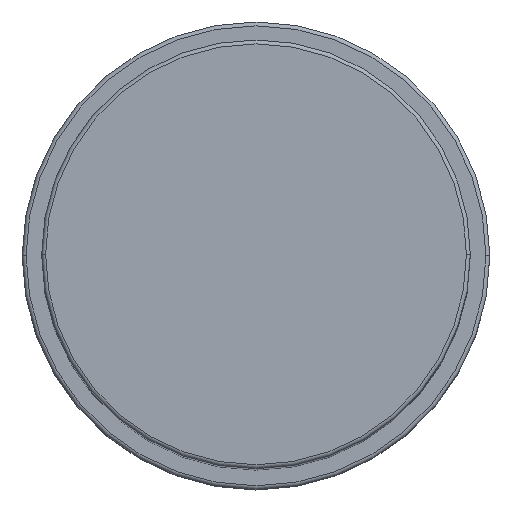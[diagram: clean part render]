
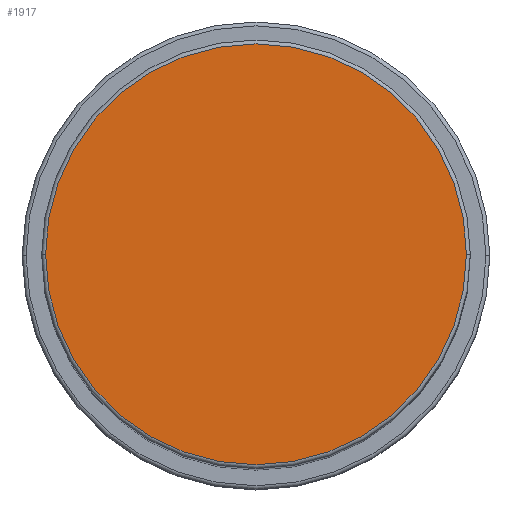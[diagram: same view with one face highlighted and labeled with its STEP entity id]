
A CAD part, top view. The second image highlights one B-rep face of the part: STEP entity #1917.
In plain terms, the highlighted planar face has unit normal (0, 0, 1).
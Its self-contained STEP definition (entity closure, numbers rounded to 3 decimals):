
#74 = DIRECTION ( 'NONE',  ( 0., 0., 1. ) ) ;
#184 = EDGE_CURVE ( 'NONE', #1503, #1585, #808, .T. ) ;
#199 = DIRECTION ( 'NONE',  ( 0., 0., 1. ) ) ;
#239 = DIRECTION ( 'NONE',  ( 1., 0., 0. ) ) ;
#367 = PLANE ( 'NONE',  #520 ) ;
#433 = EDGE_LOOP ( 'NONE', ( #670, #1933 ) ) ;
#491 = CARTESIAN_POINT ( 'NONE',  ( 0., 0., 123. ) ) ;
#520 = AXIS2_PLACEMENT_3D ( 'NONE', #703, #74, #239 ) ;
#670 = ORIENTED_EDGE ( 'NONE', *, *, #1326, .T. ) ;
#703 = CARTESIAN_POINT ( 'NONE',  ( 0., 0., 123. ) ) ;
#731 = DIRECTION ( 'NONE',  ( 1., 0., 0. ) ) ;
#808 = CIRCLE ( 'NONE', #1796, 27. ) ;
#905 = FACE_OUTER_BOUND ( 'NONE', #433, .T. ) ;
#1022 = CARTESIAN_POINT ( 'NONE',  ( -27., 0., 123. ) ) ;
#1071 = CIRCLE ( 'NONE', #1899, 27. ) ;
#1090 = CARTESIAN_POINT ( 'NONE',  ( 0., 0., 123. ) ) ;
#1232 = DIRECTION ( 'NONE',  ( 0., 0., 1. ) ) ;
#1283 = DIRECTION ( 'NONE',  ( 1., 0., 0. ) ) ;
#1326 = EDGE_CURVE ( 'NONE', #1585, #1503, #1071, .T. ) ;
#1503 = VERTEX_POINT ( 'NONE', #1022 ) ;
#1585 = VERTEX_POINT ( 'NONE', #1903 ) ;
#1796 = AXIS2_PLACEMENT_3D ( 'NONE', #1090, #1232, #731 ) ;
#1899 = AXIS2_PLACEMENT_3D ( 'NONE', #491, #199, #1283 ) ;
#1903 = CARTESIAN_POINT ( 'NONE',  ( 27., 0., 123. ) ) ;
#1917 = ADVANCED_FACE ( 'NONE', ( #905 ), #367, .T. ) ;
#1933 = ORIENTED_EDGE ( 'NONE', *, *, #184, .T. ) ;
